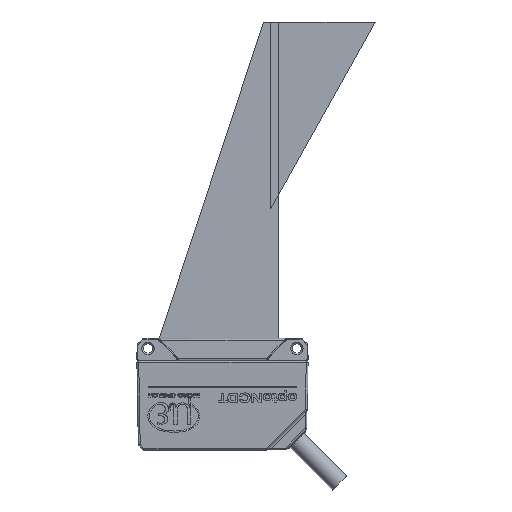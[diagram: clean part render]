
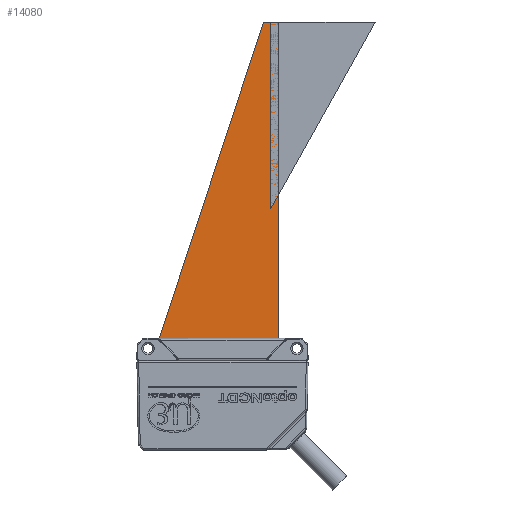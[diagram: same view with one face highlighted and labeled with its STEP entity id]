
A CAD part, front view. The second image highlights one B-rep face of the part: STEP entity #14080.
In plain terms, the highlighted planar face has unit normal (0, -1, 0).
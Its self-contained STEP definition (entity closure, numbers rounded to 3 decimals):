
#2637 = LINE ( 'NONE', #23104, #81250 ) ;
#6313 = CARTESIAN_POINT ( 'NONE',  ( 14.991, -1.5, 90. ) ) ;
#6871 = DIRECTION ( 'NONE',  ( 0., -1., 0. ) ) ;
#8043 = LINE ( 'NONE', #43527, #30642 ) ;
#8724 = CARTESIAN_POINT ( 'NONE',  ( -16.991, -1.5, 5. ) ) ;
#10848 = CARTESIAN_POINT ( 'NONE',  ( 14.991, -1.5, 5. ) ) ;
#14080 = ADVANCED_FACE ( 'NONE', ( #76029 ), #69179, .T. ) ;
#20508 = VECTOR ( 'NONE', #36517, 1000. ) ;
#23104 = CARTESIAN_POINT ( 'NONE',  ( 14.991, -1.5, 5. ) ) ;
#24485 = DIRECTION ( 'NONE',  ( 0., 0., -1. ) ) ;
#26934 = ORIENTED_EDGE ( 'NONE', *, *, #70382, .F. ) ;
#30642 = VECTOR ( 'NONE', #35769, 1000. ) ;
#35769 = DIRECTION ( 'NONE',  ( -1., 0., 0. ) ) ;
#36221 = EDGE_CURVE ( 'NONE', #36447, #81573, #86563, .T. ) ;
#36447 = VERTEX_POINT ( 'NONE', #8724 ) ;
#36517 = DIRECTION ( 'NONE',  ( 0.313, 0., 0.95 ) ) ;
#43527 = CARTESIAN_POINT ( 'NONE',  ( -16.991, -1.5, 5. ) ) ;
#44166 = VECTOR ( 'NONE', #60907, 1000. ) ;
#49335 = CARTESIAN_POINT ( 'NONE',  ( 11., -1.5, 90. ) ) ;
#51620 = ORIENTED_EDGE ( 'NONE', *, *, #36221, .F. ) ;
#51959 = CARTESIAN_POINT ( 'NONE',  ( 14.991, -1.5, 90. ) ) ;
#54192 = CARTESIAN_POINT ( 'NONE',  ( 0., -1.5, 0. ) ) ;
#56235 = ORIENTED_EDGE ( 'NONE', *, *, #59038, .F. ) ;
#59038 = EDGE_CURVE ( 'NONE', #67553, #84658, #2637, .T. ) ;
#60051 = ORIENTED_EDGE ( 'NONE', *, *, #65139, .F. ) ;
#60907 = DIRECTION ( 'NONE',  ( 1., 0., 0. ) ) ;
#65139 = EDGE_CURVE ( 'NONE', #84658, #36447, #8043, .T. ) ;
#65144 = CARTESIAN_POINT ( 'NONE',  ( 11., -1.5, 90. ) ) ;
#67553 = VERTEX_POINT ( 'NONE', #51959 ) ;
#68631 = LINE ( 'NONE', #6313, #44166 ) ;
#69179 = PLANE ( 'NONE',  #70660 ) ;
#70382 = EDGE_CURVE ( 'NONE', #81573, #67553, #68631, .T. ) ;
#70660 = AXIS2_PLACEMENT_3D ( 'NONE', #54192, #6871, #81943 ) ;
#76029 = FACE_OUTER_BOUND ( 'NONE', #85102, .T. ) ;
#81250 = VECTOR ( 'NONE', #24485, 1000. ) ;
#81573 = VERTEX_POINT ( 'NONE', #49335 ) ;
#81943 = DIRECTION ( 'NONE',  ( 0., 0., -1. ) ) ;
#84658 = VERTEX_POINT ( 'NONE', #10848 ) ;
#85102 = EDGE_LOOP ( 'NONE', ( #51620, #60051, #56235, #26934 ) ) ;
#86563 = LINE ( 'NONE', #65144, #20508 ) ;
